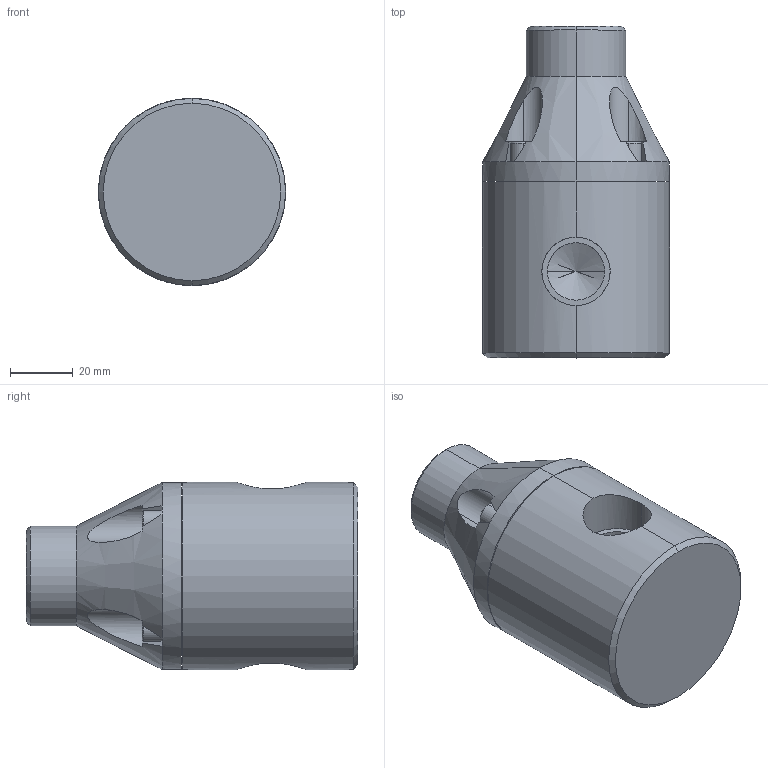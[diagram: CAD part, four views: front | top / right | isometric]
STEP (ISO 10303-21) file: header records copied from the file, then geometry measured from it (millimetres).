
FILE_DESCRIPTION (( 'STEP AP203' ), '1' );
FILE_NAME ('MBP0500MSOC.STEP', '2015-03-19T10:30:01', ( 'Dan Bernard' ), ( '' ), 'SwSTEP 2.0', 'SolidWorks 2008', '' );
FILE_SCHEMA (( 'CONFIG_CONTROL_DESIGN' ));
Length unit declared in the file: inch
Products named in the file (1): MBP0500MSOC
Bounding box: 59.44 x 105.41 x 59.44 mm (x, y, z)
Volume: 215028.6 mm3; surface area: 27857.4 mm2
Topology: 1 solids, 1 shells, 126 faces, 304 edges, 190 vertices
Faces by surface type: plane 70, cylinder 34, cone 22
Entity records: 4069 total; most frequent: CARTESIAN_POINT 1037, DIRECTION 622, ORIENTED_EDGE 600, EDGE_CURVE 300, AXIS2_PLACEMENT_3D 217, VERTEX_POINT 190, VECTOR 188, LINE 188
